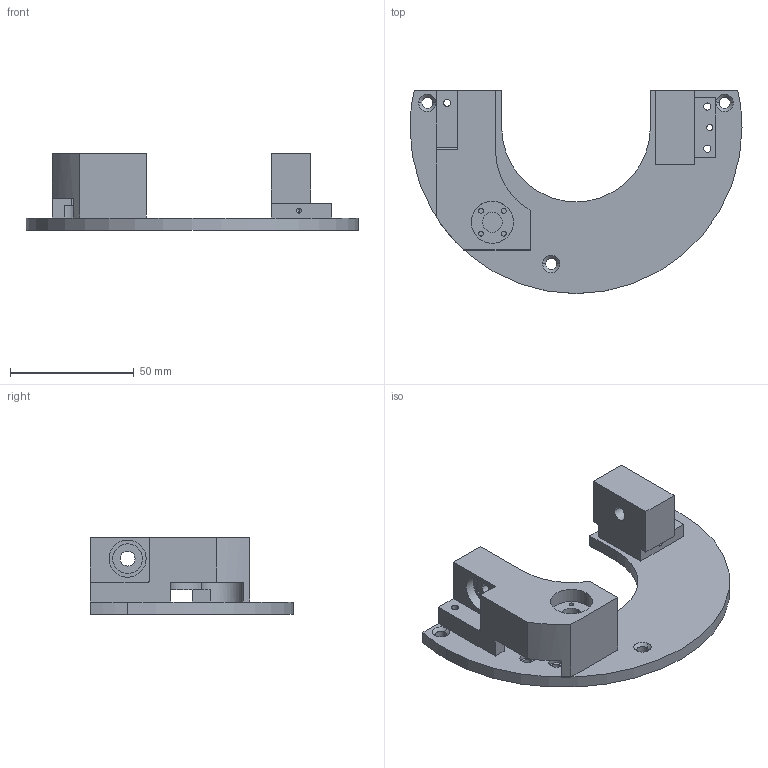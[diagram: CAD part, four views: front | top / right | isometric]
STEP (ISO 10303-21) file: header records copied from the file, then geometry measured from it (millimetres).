
FILE_DESCRIPTION (( 'STEP AP203' ), '1' );
FILE_NAME ('底板+传动箱体1-2.STEP', '2026-08-07T08:57:02', ( '微软用户' ), ( '微软中国' ), 'SwSTEP 2.0', 'SolidWorks 2024', '' );
FILE_SCHEMA (( 'CONFIG_CONTROL_DESIGN' ));
Length unit declared in the file: millimetre
Products named in the file (1): 底板+传动箱体1-2
Bounding box: 134 x 82 x 31 mm (x, y, z)
Volume: 73584.4 mm3; surface area: 31470.9 mm2
Topology: 3 solids, 3 shells, 234 faces, 589 edges, 363 vertices
Faces by surface type: cylinder 127, plane 55, cone 52
Entity records: 7079 total; most frequent: DIRECTION 1316, CARTESIAN_POINT 1171, ORIENTED_EDGE 1118, EDGE_CURVE 559, AXIS2_PLACEMENT_3D 524, VERTEX_POINT 363, EDGE_LOOP 324, CIRCLE 289
